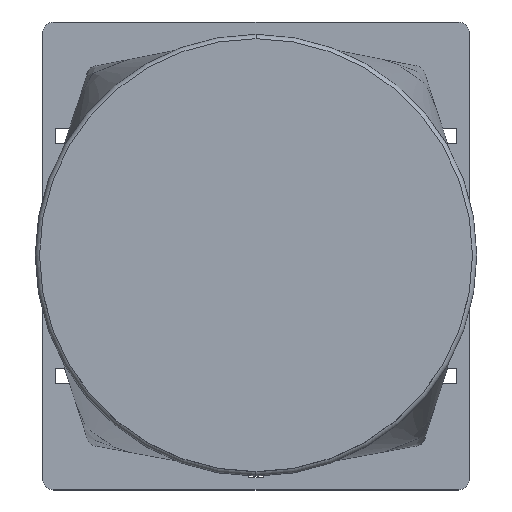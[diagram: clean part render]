
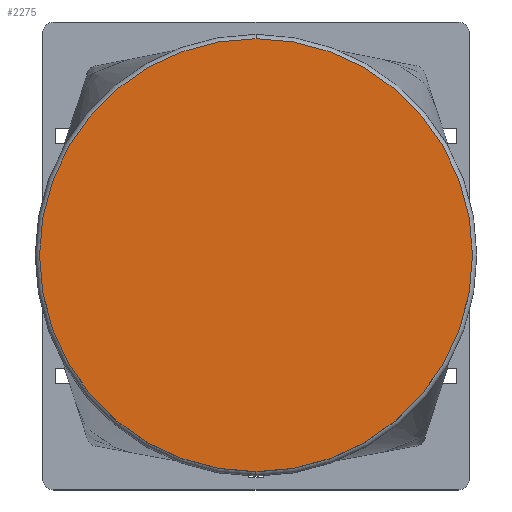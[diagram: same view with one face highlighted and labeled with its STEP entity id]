
A CAD part, top view. The second image highlights one B-rep face of the part: STEP entity #2275.
In plain terms, the highlighted planar face has unit normal (0, 0, 1).
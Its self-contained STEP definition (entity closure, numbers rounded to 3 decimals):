
#678=CARTESIAN_POINT('',(0.,0.,219.3));
#679=DIRECTION('',(0.,0.,-1.));
#680=DIRECTION('',(0.,1.,0.));
#681=AXIS2_PLACEMENT_3D('',#678,#679,#680);
#683=CARTESIAN_POINT('',(0.,0.,219.3));
#684=DIRECTION('',(0.,0.,1.));
#685=DIRECTION('',(0.,1.,0.));
#686=AXIS2_PLACEMENT_3D('',#683,#684,#685);
#721=CARTESIAN_POINT('',(0.,99.,219.3));
#723=VERTEX_POINT('',#721);
#727=CARTESIAN_POINT('',(0.,-99.,219.3));
#729=VERTEX_POINT('',#727);
#2266=CARTESIAN_POINT('',(0.,0.,219.3));
#2267=DIRECTION('',(0.,0.,1.));
#2268=DIRECTION('',(0.,1.,0.));
#2269=AXIS2_PLACEMENT_3D('',#2266,#2267,#2268);
#2270=PLANE('',#2269);
#2271=ORIENTED_EDGE('',*,*,#2248,.T.);
#2272=ORIENTED_EDGE('',*,*,#2259,.F.);
#2273=EDGE_LOOP('',(#2271,#2272));
#2274=FACE_OUTER_BOUND('',#2273,.F.);
#682=CIRCLE('',#681,99.);
#687=CIRCLE('',#686,99.);
#2248=EDGE_CURVE('',#723,#729,#682,.T.);
#2259=EDGE_CURVE('',#723,#729,#687,.T.);
#2275=ADVANCED_FACE('',(#2274),#2270,.T.);
